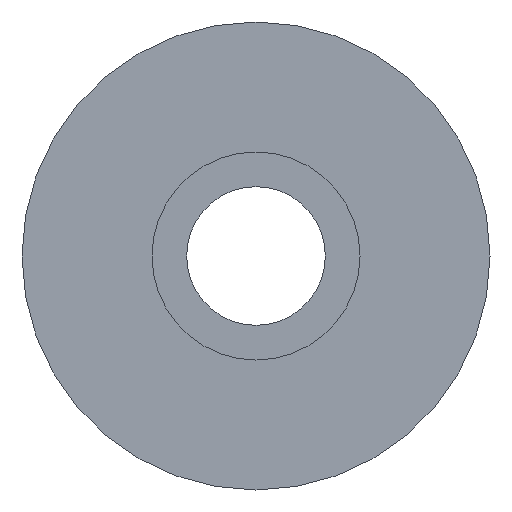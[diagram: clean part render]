
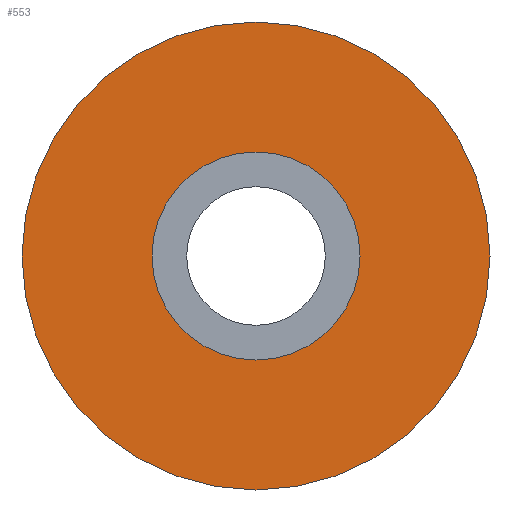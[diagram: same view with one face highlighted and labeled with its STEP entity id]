
A CAD part, left-side view. The second image highlights one B-rep face of the part: STEP entity #553.
In plain terms, the highlighted planar face has unit normal (-1, 0, 0).
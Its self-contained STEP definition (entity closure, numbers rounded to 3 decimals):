
#43 = ORIENTED_EDGE ( 'NONE', *, *, #370, .F. ) ;
#46 = VERTEX_POINT ( 'NONE', #271 ) ;
#80 = EDGE_CURVE ( 'NONE', #226, #338, #292, .T. ) ;
#98 = ORIENTED_EDGE ( 'NONE', *, *, #545, .F. ) ;
#121 = FACE_BOUND ( 'NONE', #175, .T. ) ;
#127 = ORIENTED_EDGE ( 'NONE', *, *, #350, .T. ) ;
#128 = AXIS2_PLACEMENT_3D ( 'NONE', #491, #459, #457 ) ;
#161 = CIRCLE ( 'NONE', #290, 6. ) ;
#164 = CARTESIAN_POINT ( 'NONE',  ( -8.25, 0., 0. ) ) ;
#169 = DIRECTION ( 'NONE',  ( 0., 0., -1. ) ) ;
#175 = EDGE_LOOP ( 'NONE', ( #98, #43 ) ) ;
#226 = VERTEX_POINT ( 'NONE', #462 ) ;
#270 = FACE_OUTER_BOUND ( 'NONE', #466, .T. ) ;
#271 = CARTESIAN_POINT ( 'NONE',  ( -8.25, 0., -6. ) ) ;
#280 = DIRECTION ( 'NONE',  ( 0., 0., 1. ) ) ;
#289 = CIRCLE ( 'NONE', #128, 6. ) ;
#290 = AXIS2_PLACEMENT_3D ( 'NONE', #461, #478, #502 ) ;
#291 = CIRCLE ( 'NONE', #358, 13.5 ) ;
#292 = CIRCLE ( 'NONE', #538, 13.5 ) ;
#301 = PLANE ( 'NONE',  #383 ) ;
#310 = CARTESIAN_POINT ( 'NONE',  ( -8.25, 0., 6. ) ) ;
#335 = VERTEX_POINT ( 'NONE', #310 ) ;
#338 = VERTEX_POINT ( 'NONE', #392 ) ;
#350 = EDGE_CURVE ( 'NONE', #338, #226, #291, .T. ) ;
#358 = AXIS2_PLACEMENT_3D ( 'NONE', #436, #439, #442 ) ;
#370 = EDGE_CURVE ( 'NONE', #46, #335, #161, .T. ) ;
#383 = AXIS2_PLACEMENT_3D ( 'NONE', #429, #484, #169 ) ;
#392 = CARTESIAN_POINT ( 'NONE',  ( -8.25, 0., 13.5 ) ) ;
#429 = CARTESIAN_POINT ( 'NONE',  ( -8.25, 13.5, 0. ) ) ;
#436 = CARTESIAN_POINT ( 'NONE',  ( -8.25, 0., 0. ) ) ;
#439 = DIRECTION ( 'NONE',  ( -1., 0., 0. ) ) ;
#442 = DIRECTION ( 'NONE',  ( 0., 0., 1. ) ) ;
#457 = DIRECTION ( 'NONE',  ( 0., 0., 1. ) ) ;
#458 = ORIENTED_EDGE ( 'NONE', *, *, #80, .T. ) ;
#459 = DIRECTION ( 'NONE',  ( -1., 0., 0. ) ) ;
#461 = CARTESIAN_POINT ( 'NONE',  ( -8.25, 0., 0. ) ) ;
#462 = CARTESIAN_POINT ( 'NONE',  ( -8.25, 0., -13.5 ) ) ;
#466 = EDGE_LOOP ( 'NONE', ( #127, #458 ) ) ;
#478 = DIRECTION ( 'NONE',  ( -1., 0., 0. ) ) ;
#484 = DIRECTION ( 'NONE',  ( 1., 0., 0. ) ) ;
#491 = CARTESIAN_POINT ( 'NONE',  ( -8.25, 0., 0. ) ) ;
#502 = DIRECTION ( 'NONE',  ( 0., 0., 1. ) ) ;
#538 = AXIS2_PLACEMENT_3D ( 'NONE', #164, #556, #280 ) ;
#545 = EDGE_CURVE ( 'NONE', #335, #46, #289, .T. ) ;
#553 = ADVANCED_FACE ( 'NONE', ( #121, #270 ), #301, .F. ) ;
#556 = DIRECTION ( 'NONE',  ( -1., 0., 0. ) ) ;
